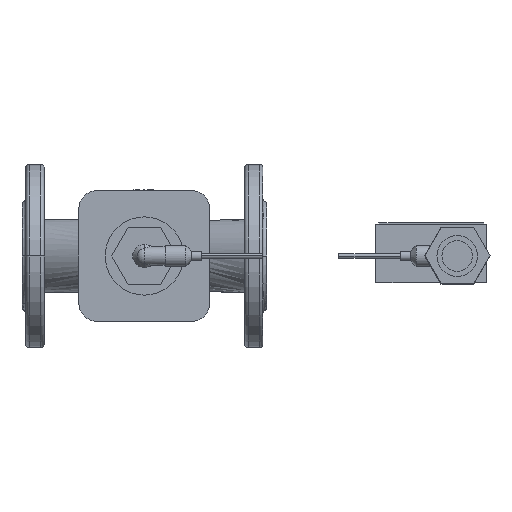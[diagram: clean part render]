
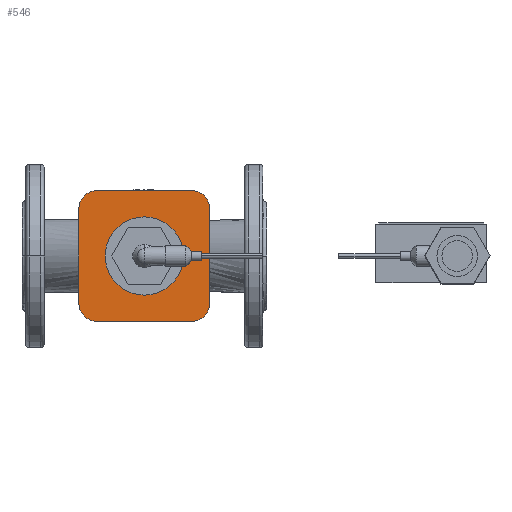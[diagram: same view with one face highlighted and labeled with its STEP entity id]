
A CAD part, front view. The second image highlights one B-rep face of the part: STEP entity #546.
In plain terms, the highlighted planar face has unit normal (0, -1, 0).
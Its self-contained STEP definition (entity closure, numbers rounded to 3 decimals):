
#74 = VERTEX_POINT ( 'NONE', #6810 ) ;
#75 = VERTEX_POINT ( 'NONE', #6809 ) ;
#85 = EDGE_CURVE ( 'NONE', #74, #75, #6637, .T. ) ;
#443 = EDGE_CURVE ( 'NONE', #446, #538, #7470, .T. ) ;
#446 = VERTEX_POINT ( 'NONE', #7388 ) ;
#448 = EDGE_CURVE ( 'NONE', #622, #449, #7387, .T. ) ;
#449 = VERTEX_POINT ( 'NONE', #7467 ) ;
#466 = EDGE_LOOP ( 'NONE', ( #500, #552 ) ) ;
#476 = EDGE_CURVE ( 'NONE', #538, #568, #7487, .T. ) ;
#483 = ORIENTED_EDGE ( 'NONE', *, *, #564, .F. ) ;
#484 = ORIENTED_EDGE ( 'NONE', *, *, #525, .F. ) ;
#485 = ORIENTED_EDGE ( 'NONE', *, *, #520, .F. ) ;
#486 = ORIENTED_EDGE ( 'NONE', *, *, #448, .F. ) ;
#500 = ORIENTED_EDGE ( 'NONE', *, *, #85, .F. ) ;
#501 = EDGE_CURVE ( 'NONE', #518, #622, #7456, .T. ) ;
#502 = EDGE_LOOP ( 'NONE', ( #547, #503, #504, #555, #483, #484, #485, #486 ) ) ;
#503 = ORIENTED_EDGE ( 'NONE', *, *, #575, .F. ) ;
#504 = ORIENTED_EDGE ( 'NONE', *, *, #476, .F. ) ;
#518 = VERTEX_POINT ( 'NONE', #7418 ) ;
#520 = EDGE_CURVE ( 'NONE', #449, #572, #7419, .T. ) ;
#525 = EDGE_CURVE ( 'NONE', #572, #535, #7517, .T. ) ;
#535 = VERTEX_POINT ( 'NONE', #7493 ) ;
#538 = VERTEX_POINT ( 'NONE', #7475 ) ;
#546 = ADVANCED_FACE ( 'NONE', ( #7414, #7413 ), #7359, .T. ) ;
#547 = ORIENTED_EDGE ( 'NONE', *, *, #501, .F. ) ;
#552 = ORIENTED_EDGE ( 'NONE', *, *, #553, .F. ) ;
#553 = EDGE_CURVE ( 'NONE', #75, #74, #7554, .T. ) ;
#555 = ORIENTED_EDGE ( 'NONE', *, *, #443, .F. ) ;
#564 = EDGE_CURVE ( 'NONE', #535, #446, #7730, .T. ) ;
#568 = VERTEX_POINT ( 'NONE', #7573 ) ;
#572 = VERTEX_POINT ( 'NONE', #7575 ) ;
#575 = EDGE_CURVE ( 'NONE', #568, #518, #7583, .T. ) ;
#622 = VERTEX_POINT ( 'NONE', #7612 ) ;
#6637 = CIRCLE ( 'NONE', #6642, 32. ) ;
#6642 = AXIS2_PLACEMENT_3D ( 'NONE', #6745, #6744, #6743 ) ;
#6743 = DIRECTION ( 'NONE',  ( 0., 0., -1. ) ) ;
#6744 = DIRECTION ( 'NONE',  ( 0., -1., 0. ) ) ;
#6745 = CARTESIAN_POINT ( 'NONE',  ( 0., -165., 0. ) ) ;
#6809 = CARTESIAN_POINT ( 'NONE',  ( 0., -165., 32. ) ) ;
#6810 = CARTESIAN_POINT ( 'NONE',  ( 0., -165., -32. ) ) ;
#7347 = DIRECTION ( 'NONE',  ( -1., 0., 0. ) ) ;
#7355 = DIRECTION ( 'NONE',  ( 0., 0., -1. ) ) ;
#7356 = DIRECTION ( 'NONE',  ( 0., -1., 0. ) ) ;
#7357 = CARTESIAN_POINT ( 'NONE',  ( 32., -165., 0. ) ) ;
#7358 = AXIS2_PLACEMENT_3D ( 'NONE', #7357, #7356, #7355 ) ;
#7359 = PLANE ( 'NONE',  #7358 ) ;
#7380 = CARTESIAN_POINT ( 'NONE',  ( 38.5, -165., -38.5 ) ) ;
#7386 = AXIS2_PLACEMENT_3D ( 'NONE', #7406, #7405, #7404 ) ;
#7387 = CIRCLE ( 'NONE', #7386, 15. ) ;
#7388 = CARTESIAN_POINT ( 'NONE',  ( 53.5, -165., -38.5 ) ) ;
#7404 = DIRECTION ( 'NONE',  ( 0., 0., -1. ) ) ;
#7405 = DIRECTION ( 'NONE',  ( 0., 1., 0. ) ) ;
#7406 = CARTESIAN_POINT ( 'NONE',  ( -38.5, -165., 38.5 ) ) ;
#7413 = FACE_BOUND ( 'NONE', #466, .T. ) ;
#7414 = FACE_OUTER_BOUND ( 'NONE', #502, .T. ) ;
#7418 = CARTESIAN_POINT ( 'NONE',  ( -53.5, -165., -38.5 ) ) ;
#7419 = LINE ( 'NONE', #7522, #7521 ) ;
#7442 = DIRECTION ( 'NONE',  ( 0., 0., -1. ) ) ;
#7443 = DIRECTION ( 'NONE',  ( 0., 1., 0. ) ) ;
#7453 = DIRECTION ( 'NONE',  ( 0., 0., 1. ) ) ;
#7454 = VECTOR ( 'NONE', #7453, 1000. ) ;
#7455 = CARTESIAN_POINT ( 'NONE',  ( -53.5, -165., -38.5 ) ) ;
#7456 = LINE ( 'NONE', #7455, #7454 ) ;
#7467 = CARTESIAN_POINT ( 'NONE',  ( -38.5, -165., 53.5 ) ) ;
#7469 = AXIS2_PLACEMENT_3D ( 'NONE', #7380, #7443, #7442 ) ;
#7470 = CIRCLE ( 'NONE', #7469, 15. ) ;
#7475 = CARTESIAN_POINT ( 'NONE',  ( 38.5, -165., -53.5 ) ) ;
#7480 = VECTOR ( 'NONE', #7347, 1000. ) ;
#7481 = CARTESIAN_POINT ( 'NONE',  ( 38.5, -165., -53.5 ) ) ;
#7487 = LINE ( 'NONE', #7481, #7480 ) ;
#7493 = CARTESIAN_POINT ( 'NONE',  ( 53.5, -165., 38.5 ) ) ;
#7509 = DIRECTION ( 'NONE',  ( 0., 0., -1. ) ) ;
#7510 = DIRECTION ( 'NONE',  ( 0., 1., 0. ) ) ;
#7511 = CARTESIAN_POINT ( 'NONE',  ( 38.5, -165., 38.5 ) ) ;
#7512 = AXIS2_PLACEMENT_3D ( 'NONE', #7511, #7510, #7509 ) ;
#7517 = CIRCLE ( 'NONE', #7512, 15. ) ;
#7520 = DIRECTION ( 'NONE',  ( 1., 0., 0. ) ) ;
#7521 = VECTOR ( 'NONE', #7520, 1000. ) ;
#7522 = CARTESIAN_POINT ( 'NONE',  ( 38.5, -165., 53.5 ) ) ;
#7551 = DIRECTION ( 'NONE',  ( 0., 0., -1. ) ) ;
#7552 = DIRECTION ( 'NONE',  ( 0., -1., 0. ) ) ;
#7553 = AXIS2_PLACEMENT_3D ( 'NONE', #7660, #7552, #7551 ) ;
#7554 = CIRCLE ( 'NONE', #7553, 32. ) ;
#7573 = CARTESIAN_POINT ( 'NONE',  ( -38.5, -165., -53.5 ) ) ;
#7574 = VECTOR ( 'NONE', #7728, 1000. ) ;
#7575 = CARTESIAN_POINT ( 'NONE',  ( 38.5, -165., 53.5 ) ) ;
#7583 = CIRCLE ( 'NONE', #7665, 15. ) ;
#7612 = CARTESIAN_POINT ( 'NONE',  ( -53.5, -165., 38.5 ) ) ;
#7660 = CARTESIAN_POINT ( 'NONE',  ( 0., -165., 0. ) ) ;
#7662 = DIRECTION ( 'NONE',  ( 0., 0., -1. ) ) ;
#7663 = DIRECTION ( 'NONE',  ( 0., 1., 0. ) ) ;
#7664 = CARTESIAN_POINT ( 'NONE',  ( -38.5, -165., -38.5 ) ) ;
#7665 = AXIS2_PLACEMENT_3D ( 'NONE', #7664, #7663, #7662 ) ;
#7728 = DIRECTION ( 'NONE',  ( 0., 0., -1. ) ) ;
#7729 = CARTESIAN_POINT ( 'NONE',  ( 53.5, -165., -38.5 ) ) ;
#7730 = LINE ( 'NONE', #7729, #7574 ) ;
